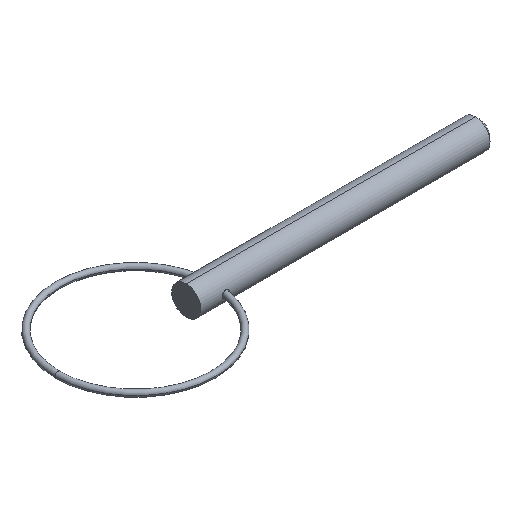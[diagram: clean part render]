
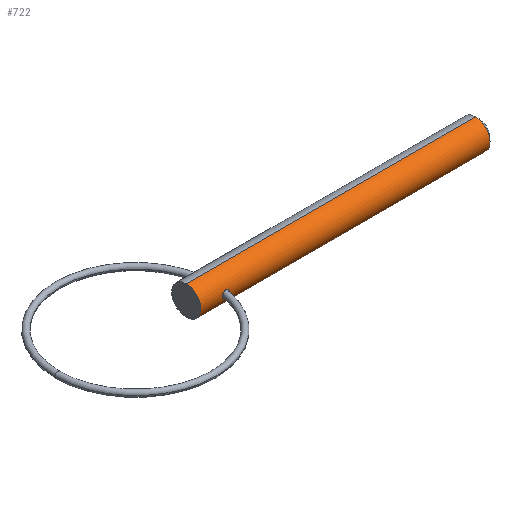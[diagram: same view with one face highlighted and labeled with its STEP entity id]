
A CAD part, isometric view. The second image highlights one B-rep face of the part: STEP entity #722.
In plain terms, the highlighted cylindrical face has radius 2.38 mm (diameter 4.76 mm), a partial arc.
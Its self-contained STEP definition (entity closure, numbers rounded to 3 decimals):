
#17 = EDGE_CURVE ( 'NONE', #251, #136, #748, .T. ) ;
#30 = CARTESIAN_POINT ( 'NONE',  ( 3.538, -2.38, 0.159 ) ) ;
#63 = DIRECTION ( 'NONE',  ( 0., 0., -1. ) ) ;
#79 = ORIENTED_EDGE ( 'NONE', *, *, #442, .T. ) ;
#82 = ORIENTED_EDGE ( 'NONE', *, *, #17, .T. ) ;
#88 = VECTOR ( 'NONE', #676, 1000. ) ;
#90 = CARTESIAN_POINT ( 'NONE',  ( 4.75, -2.38, 0.157 ) ) ;
#112 = CARTESIAN_POINT ( 'NONE',  ( 0., 0., -2.38 ) ) ;
#113 = CARTESIAN_POINT ( 'NONE',  ( 0., 0., 2.38 ) ) ;
#117 = CARTESIAN_POINT ( 'NONE',  ( 3.538, -2.38, -0.159 ) ) ;
#121 = VERTEX_POINT ( 'NONE', #112 ) ;
#136 = VERTEX_POINT ( 'NONE', #291 ) ;
#151 = ORIENTED_EDGE ( 'NONE', *, *, #668, .T. ) ;
#165 = DIRECTION ( 'NONE',  ( 1., 0., 0. ) ) ;
#169 = CIRCLE ( 'NONE', #790, 2.38 ) ;
#186 = CARTESIAN_POINT ( 'NONE',  ( 3.836, -2.323, -0.528 ) ) ;
#188 = FACE_OUTER_BOUND ( 'NONE', #320, .T. ) ;
#192 = CARTESIAN_POINT ( 'NONE',  ( 3.538, -2.38, 0. ) ) ;
#211 = CARTESIAN_POINT ( 'NONE',  ( 3.836, -2.323, 0.528 ) ) ;
#218 = CARTESIAN_POINT ( 'NONE',  ( 0., 0., 0. ) ) ;
#227 = CARTESIAN_POINT ( 'NONE',  ( 0., 0., 2.38 ) ) ;
#246 = CARTESIAN_POINT ( 'NONE',  ( 4.75, -2.38, -0.157 ) ) ;
#249 = VERTEX_POINT ( 'NONE', #597 ) ;
#251 = VERTEX_POINT ( 'NONE', #727 ) ;
#264 = EDGE_LOOP ( 'NONE', ( #82, #151 ) ) ;
#291 = CARTESIAN_POINT ( 'NONE',  ( 4.75, -2.38, 0. ) ) ;
#299 = DIRECTION ( 'NONE',  ( 1., 0., 0. ) ) ;
#306 = LINE ( 'NONE', #734, #88 ) ;
#318 = CARTESIAN_POINT ( 'NONE',  ( 47.335, 0., 2.38 ) ) ;
#320 = EDGE_LOOP ( 'NONE', ( #438, #79, #687, #496 ) ) ;
#345 = CARTESIAN_POINT ( 'NONE',  ( 4.75, -2.38, 0. ) ) ;
#357 = EDGE_CURVE ( 'NONE', #762, #249, #500, .T. ) ;
#366 = AXIS2_PLACEMENT_3D ( 'NONE', #367, #375, #63 ) ;
#367 = CARTESIAN_POINT ( 'NONE',  ( 0., 0., 0. ) ) ;
#375 = DIRECTION ( 'NONE',  ( 1., 0., 0. ) ) ;
#396 = VERTEX_POINT ( 'NONE', #113 ) ;
#399 = CARTESIAN_POINT ( 'NONE',  ( 4.465, -2.322, 0.535 ) ) ;
#429 = CARTESIAN_POINT ( 'NONE',  ( 4.307, -2.304, -0.597 ) ) ;
#433 = CARTESIAN_POINT ( 'NONE',  ( 4.687, -2.362, -0.314 ) ) ;
#436 = FACE_BOUND ( 'NONE', #264, .T. ) ;
#438 = ORIENTED_EDGE ( 'NONE', *, *, #607, .F. ) ;
#442 = EDGE_CURVE ( 'NONE', #396, #121, #169, .T. ) ;
#456 = CARTESIAN_POINT ( 'NONE',  ( 3.991, -2.305, 0.592 ) ) ;
#470 = DIRECTION ( 'NONE',  ( 1., 0., 0. ) ) ;
#474 = DIRECTION ( 'NONE',  ( 0., 0., -1. ) ) ;
#485 = CARTESIAN_POINT ( 'NONE',  ( 4.464, -2.322, -0.536 ) ) ;
#496 = ORIENTED_EDGE ( 'NONE', *, *, #357, .F. ) ;
#499 = CARTESIAN_POINT ( 'NONE',  ( 4.75, -2.38, 0. ) ) ;
#500 = CIRCLE ( 'NONE', #604, 2.38 ) ;
#577 = CARTESIAN_POINT ( 'NONE',  ( 3.538, -2.38, 0. ) ) ;
#597 = CARTESIAN_POINT ( 'NONE',  ( 47.335, 0., -2.38 ) ) ;
#601 = VECTOR ( 'NONE', #165, 1000. ) ;
#604 = AXIS2_PLACEMENT_3D ( 'NONE', #788, #299, #728 ) ;
#606 = CARTESIAN_POINT ( 'NONE',  ( 3.61, -2.362, -0.312 ) ) ;
#607 = EDGE_CURVE ( 'NONE', #396, #762, #782, .T. ) ;
#642 = CARTESIAN_POINT ( 'NONE',  ( 4.687, -2.362, 0.314 ) ) ;
#668 = EDGE_CURVE ( 'NONE', #136, #251, #747, .T. ) ;
#676 = DIRECTION ( 'NONE',  ( 1., 0., 0. ) ) ;
#687 = ORIENTED_EDGE ( 'NONE', *, *, #781, .T. ) ;
#705 = CARTESIAN_POINT ( 'NONE',  ( 4.307, -2.304, 0.597 ) ) ;
#722 = ADVANCED_FACE ( 'NONE', ( #188, #436 ), #744, .T. ) ;
#727 = CARTESIAN_POINT ( 'NONE',  ( 3.538, -2.38, 0. ) ) ;
#728 = DIRECTION ( 'NONE',  ( 0., 0., -1. ) ) ;
#734 = CARTESIAN_POINT ( 'NONE',  ( 0., 0., -2.38 ) ) ;
#742 = CARTESIAN_POINT ( 'NONE',  ( 3.992, -2.305, -0.592 ) ) ;
#744 = CYLINDRICAL_SURFACE ( 'NONE', #366, 2.38 ) ;
#747 = B_SPLINE_CURVE_WITH_KNOTS ( 'NONE', 3,
 ( #499, #246, #433, #485, #429, #742, #186, #606, #117, #192 ),
 .UNSPECIFIED., .F., .F.,
 ( 4, 2, 2, 2, 4 ),
 ( 0.002, 0.003, 0.003, 0.004, 0.004 ),
 .UNSPECIFIED. ) ;
#748 = B_SPLINE_CURVE_WITH_KNOTS ( 'NONE', 3,
 ( #577, #30, #767, #211, #456, #705, #399, #642, #90, #345 ),
 .UNSPECIFIED., .F., .F.,
 ( 4, 2, 2, 2, 4 ),
 ( 0., 0.001, 0.001, 0.002, 0.002 ),
 .UNSPECIFIED. ) ;
#762 = VERTEX_POINT ( 'NONE', #318 ) ;
#767 = CARTESIAN_POINT ( 'NONE',  ( 3.61, -2.362, 0.313 ) ) ;
#781 = EDGE_CURVE ( 'NONE', #121, #249, #306, .T. ) ;
#782 = LINE ( 'NONE', #227, #601 ) ;
#788 = CARTESIAN_POINT ( 'NONE',  ( 47.335, 0., 0. ) ) ;
#790 = AXIS2_PLACEMENT_3D ( 'NONE', #218, #470, #474 ) ;
